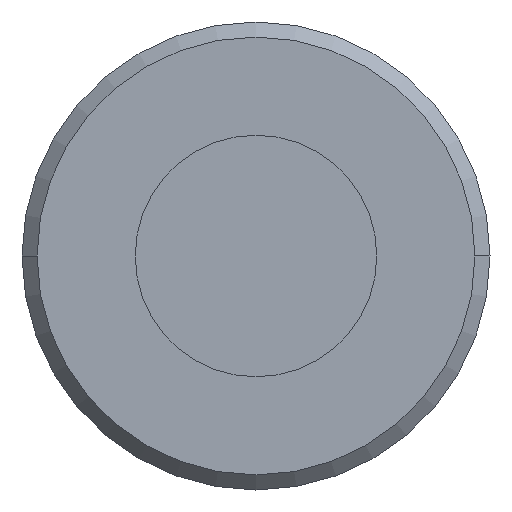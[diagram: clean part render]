
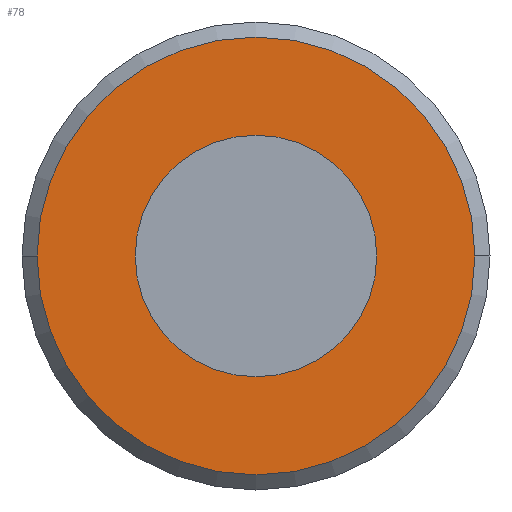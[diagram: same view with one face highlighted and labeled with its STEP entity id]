
A CAD part, left-side view. The second image highlights one B-rep face of the part: STEP entity #78.
In plain terms, the highlighted planar face has unit normal (-1, 0, 0).
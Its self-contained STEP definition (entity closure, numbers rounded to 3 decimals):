
#3 = AXIS2_PLACEMENT_3D ( 'NONE', #519, #283, #413 ) ;
#11 = DIRECTION ( 'NONE',  ( 0., -1., 0. ) ) ;
#25 = ORIENTED_EDGE ( 'NONE', *, *, #139, .F. ) ;
#26 = VERTEX_POINT ( 'NONE', #446 ) ;
#50 = CIRCLE ( 'NONE', #86, 8. ) ;
#55 = EDGE_CURVE ( 'NONE', #26, #397, #138, .T. ) ;
#78 = ADVANCED_FACE ( 'NONE', ( #498, #515 ), #406, .F. ) ;
#86 = AXIS2_PLACEMENT_3D ( 'NONE', #188, #101, #508 ) ;
#101 = DIRECTION ( 'NONE',  ( -1., 0., 0. ) ) ;
#108 = EDGE_CURVE ( 'NONE', #305, #192, #50, .T. ) ;
#131 = EDGE_LOOP ( 'NONE', ( #200, #25 ) ) ;
#138 = CIRCLE ( 'NONE', #170, 14.5 ) ;
#139 = EDGE_CURVE ( 'NONE', #192, #305, #296, .T. ) ;
#159 = DIRECTION ( 'NONE',  ( -1., 0., 0. ) ) ;
#170 = AXIS2_PLACEMENT_3D ( 'NONE', #352, #273, #451 ) ;
#180 = CARTESIAN_POINT ( 'NONE',  ( -24.026, -8., 0. ) ) ;
#188 = CARTESIAN_POINT ( 'NONE',  ( -24.026, 0., 0. ) ) ;
#192 = VERTEX_POINT ( 'NONE', #407 ) ;
#200 = ORIENTED_EDGE ( 'NONE', *, *, #108, .F. ) ;
#250 = DIRECTION ( 'NONE',  ( 0., -1., 0. ) ) ;
#260 = CARTESIAN_POINT ( 'NONE',  ( -24.026, 0., 0. ) ) ;
#273 = DIRECTION ( 'NONE',  ( -1., 0., 0. ) ) ;
#283 = DIRECTION ( 'NONE',  ( 1., 0., 0. ) ) ;
#287 = CARTESIAN_POINT ( 'NONE',  ( -24.026, 14.5, 0. ) ) ;
#293 = EDGE_LOOP ( 'NONE', ( #516, #386 ) ) ;
#296 = CIRCLE ( 'NONE', #364, 8. ) ;
#305 = VERTEX_POINT ( 'NONE', #180 ) ;
#310 = EDGE_CURVE ( 'NONE', #397, #26, #347, .T. ) ;
#347 = CIRCLE ( 'NONE', #522, 14.5 ) ;
#352 = CARTESIAN_POINT ( 'NONE',  ( -24.026, 0., 0. ) ) ;
#364 = AXIS2_PLACEMENT_3D ( 'NONE', #373, #159, #250 ) ;
#373 = CARTESIAN_POINT ( 'NONE',  ( -24.026, 0., 0. ) ) ;
#386 = ORIENTED_EDGE ( 'NONE', *, *, #55, .T. ) ;
#397 = VERTEX_POINT ( 'NONE', #287 ) ;
#406 = PLANE ( 'NONE',  #3 ) ;
#407 = CARTESIAN_POINT ( 'NONE',  ( -24.026, 8., 0. ) ) ;
#413 = DIRECTION ( 'NONE',  ( 0., 1., 0. ) ) ;
#446 = CARTESIAN_POINT ( 'NONE',  ( -24.026, -14.5, 0. ) ) ;
#451 = DIRECTION ( 'NONE',  ( 0., -1., 0. ) ) ;
#482 = DIRECTION ( 'NONE',  ( -1., 0., 0. ) ) ;
#498 = FACE_BOUND ( 'NONE', #131, .T. ) ;
#508 = DIRECTION ( 'NONE',  ( 0., -1., 0. ) ) ;
#515 = FACE_OUTER_BOUND ( 'NONE', #293, .T. ) ;
#516 = ORIENTED_EDGE ( 'NONE', *, *, #310, .T. ) ;
#519 = CARTESIAN_POINT ( 'NONE',  ( -24.026, 14.5, 0. ) ) ;
#522 = AXIS2_PLACEMENT_3D ( 'NONE', #260, #482, #11 ) ;
